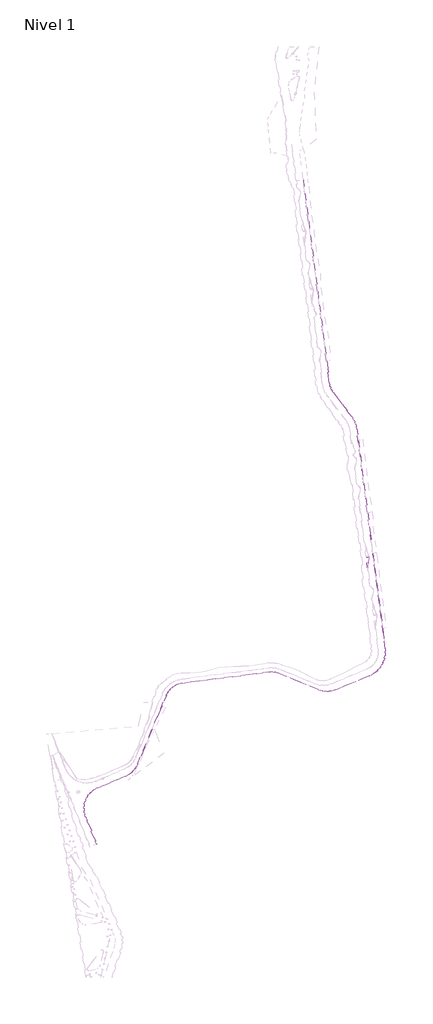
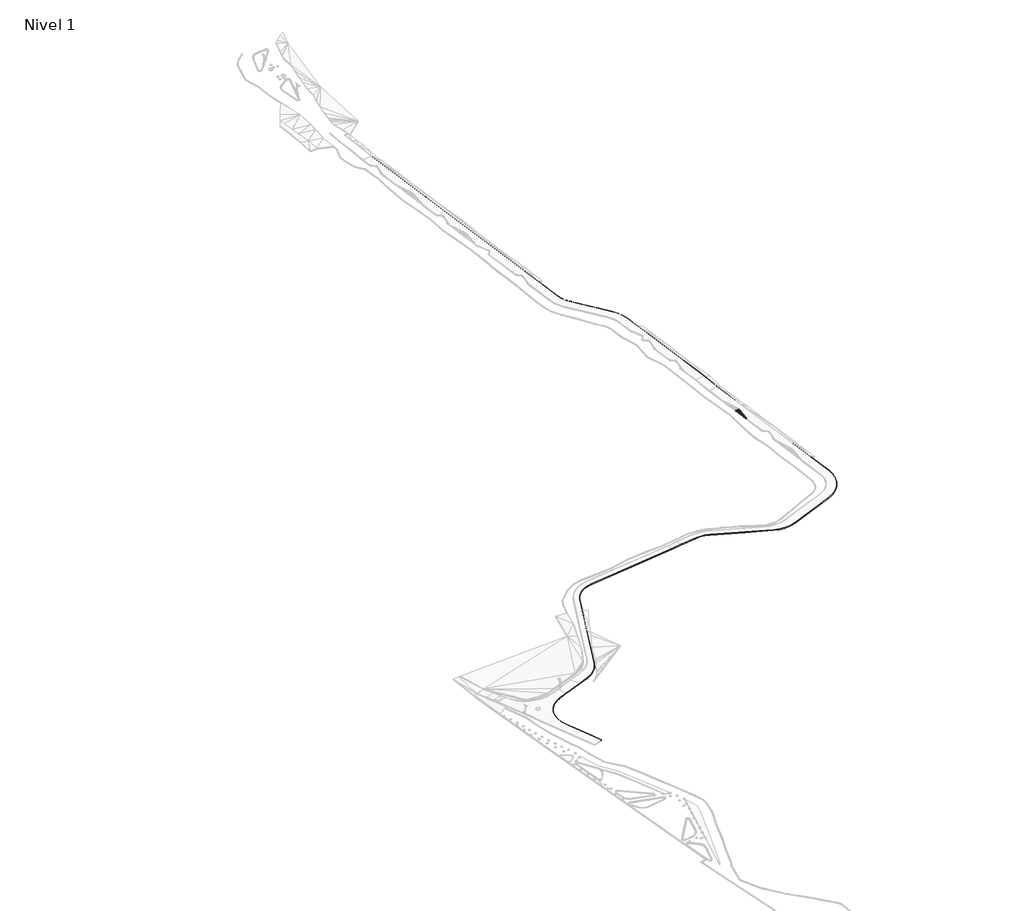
# One storey, part 30 of 45: 2 slabs.
"""IFC4 building model written with IfcOpenShell, lengths in millimetres."""

from ifc_helpers import new_model, si_unit, frame, origin, place, context, project, spatial, polyline, circle_curve, element, save
from ifc_brep_helpers import plane_surface, cylinder_surface, revolved_surface, spline_surface, advanced_brep

model = new_model("IFC4")

# Units and contexts
model_context = context("Model", 3, world=origin())
ifc_project = project(units=[si_unit("LENGTHUNIT", "METRE", prefix="MILLI")], contexts=[model_context])

# Site, building, storey
site = spatial("IfcSite", under=ifc_project)
building = spatial("IfcBuilding", under=site)
storey = spatial("IfcBuildingStorey", under=building, Name="Nivel 1", Elevation=0.0)

# Slabs
placement = place(None, origin())
element("IfcSlab", 1, ObjectType="Lippia", at=placement, inside=storey, context=model_context, shape_type="AdvancedBrep", body=[
    advanced_brep(
    [(-167707.6536234, 533759.1265405, 4450.0), (-167707.6536234, 533759.1265405, 4750.0), (-166821.7262789, 533873.9357882, 4750.0), (-166821.7262789, 533873.9357882, 4450.0), (-166258.7533804, 533342.2369371, 4750.0), (-166258.7533804, 533342.2369371, 4450.0), (-166742.3637754, 526297.0432619, 4750.0), (-166742.3637754, 526297.0432619, 4450.0), (-167239.8677624, 526283.2927639, 4450.0), (-167239.8677624, 526283.2927639, 4750.0), (-168136.2783903, 533201.3142607, 4750.0), (-168136.2783903, 533201.3142607, 4450.0), (-166942.822357, 533188.446603, 5050.0), (-167431.7029269, 533296.0234147, 5050.0), (-166942.822357, 533188.446603, 4750.0), (-167431.7029269, 533296.0234147, 4750.0), (-166960.6240179, 531466.2723273, 5250.0), (-166843.4058748, 531731.2431496, 5250.0), (-166726.1877317, 531996.2139719, 5250.0), (-166888.8368648, 532338.4883296, 5250.0), (-167309.8477364, 532181.7210546, 5250.0), (-167372.2033603, 531899.7035284, 5250.0), (-167423.7014396, 531666.7917231, 5250.0), (-167266.1271225, 531327.4580686, 5250.0), (-166960.6240179, 531466.2723273, 4950.0), (-167266.1271225, 531327.4580686, 4950.0), (-167423.7014396, 531666.7917231, 4950.0), (-167372.2033603, 531899.7035284, 4950.0), (-167309.8477364, 532181.7210546, 4950.0), (-166888.8368648, 532338.4883296, 4950.0), (-166726.1877317, 531996.2139719, 4950.0), (-166843.4058748, 531731.2431496, 4950.0), (-167732.8971704, 533016.4438364, 5050.0), (-167655.4986829, 533235.0913425, 5050.0), (-167732.8971704, 533016.4438364, 4750.0), (-167655.4986829, 533235.0913425, 4750.0), (-166638.654233, 532989.5006095, 5050.0), (-166638.654233, 532989.5006095, 4750.0), (-166549.5710017, 532637.1344167, 5050.0), (-166845.0080374, 530184.4485165, 5050.0), (-166845.0080374, 530184.4485165, 4750.0), (-166549.5710017, 532637.1344167, 4750.0), (-167340.8626541, 530180.137463, 5050.0), (-167340.8626541, 530180.137463, 4750.0), (-167091.0298451, 529964.3560648, 5050.0), (-167091.0298451, 529964.3560648, 4750.0)],
    [
        (0, 1),
        (1, 2),
        (2, 3),
        (3, 0),
        (2, 4, circle_curve(frame((-166757.4670893, 533378.0787528, 4750.0), z_axis=(0.0, 0.0, -1.0), x_axis=(0.9764306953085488, 0.21583117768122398, 0.0)), 499.9999992)),
        (4, 5),
        (5, 3, circle_curve(frame((-166757.4670893, 533378.0787528, 4450.0), z_axis=(0.0, 0.0, 1.0), x_axis=(0.9764306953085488, 0.21583117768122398, 0.0)), 499.9999992)),
        (4, 6),
        (6, 7),
        (7, 5),
        (8, 9),
        (9, 10),
        (10, 11),
        (11, 8),
        (10, 1, circle_curve(frame((-167640.1855606, 533263.6993909, 4750.0), z_axis=(0.0, 0.0, -1.0), x_axis=(0.9764306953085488, 0.21583117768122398, 0.0)), 500.0000001)),
        (0, 11, circle_curve(frame((-167640.1855606, 533263.6993909, 4450.0), z_axis=(0.0, 0.0, 1.0), x_axis=(0.9764306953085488, 0.21583117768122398, 0.0)), 500.0000001)),
        (2, 12),
        (12, 4),
        (1, 13),
        (13, 2),
        (5, 14),
        (14, 3),
        (3, 15),
        (15, 0),
        (16, 17),
        (17, 18),
        (18, 19),
        (19, 20),
        (20, 21),
        (21, 22),
        (22, 23),
        (23, 16),
        (24, 25),
        (25, 26),
        (26, 27),
        (27, 28),
        (28, 29),
        (29, 30),
        (30, 31),
        (31, 24),
        (20, 32),
        (32, 22),
        (10, 32),
        (32, 33),
        (33, 10),
        (19, 32),
        (26, 34),
        (34, 28),
        (11, 35),
        (35, 34),
        (34, 11),
        (34, 29),
        (32, 12),
        (12, 13),
        (13, 33),
        (19, 12),
        (12, 36),
        (36, 4),
        (35, 15),
        (15, 14),
        (14, 34),
        (14, 29),
        (5, 37),
        (37, 14),
        (4, 38),
        (38, 39),
        (39, 4),
        (19, 38),
        (38, 36),
        (36, 19),
        (5, 40),
        (40, 41),
        (41, 5),
        (29, 37),
        (37, 41),
        (41, 29),
        (22, 42),
        (42, 23),
        (23, 39),
        (39, 16),
        (39, 18),
        (25, 43),
        (43, 26),
        (24, 40),
        (40, 25),
        (30, 40),
        (42, 39),
        (40, 43),
        (1, 33),
        (35, 0),
        (10, 42),
        (42, 32),
        (42, 44),
        (44, 39),
        (18, 38),
        (34, 43),
        (43, 11),
        (40, 45),
        (45, 43),
        (41, 30),
        (6, 9, circle_curve(frame((-166991.7811858, 526314.1642749, 4750.0), z_axis=(0.0, 0.0, -1.0), x_axis=(0.9764306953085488, 0.21583117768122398, 0.0)), 249.9999994)),
        (8, 7, circle_curve(frame((-166991.7811858, 526314.1642749, 4450.0), z_axis=(0.0, 0.0, 1.0), x_axis=(0.9764306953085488, 0.21583117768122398, 0.0)), 249.9999994)),
        (9, 42),
        (9, 44),
        (6, 44),
        (6, 39),
        (43, 8),
        (45, 8),
        (45, 7),
        (40, 7),
    ],
    [
        plane_surface(frame((-167707.6536234, 533759.1265405, 4450.0), z_axis=(-0.12851749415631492, 0.9917072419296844, 0.0), x_axis=(0.0, 0.0, 1.0))),
        cylinder_surface(frame((-166757.4670893, 533378.0787528, 4750.0), z_axis=(0.0, 0.0, -1.0), x_axis=(0.9764306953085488, 0.21583117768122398, 0.0)), 499.9999992),
        plane_surface(frame((-166258.7533804, 533342.2369371, 4450.0), z_axis=(0.9976522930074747, -0.06848286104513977, 0.0), x_axis=(0.0, 0.0, 1.0))),
        plane_surface(frame((-167239.8677624, 526283.2927639, 4450.0), z_axis=(-0.9917092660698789, -0.12850187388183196, 0.0), x_axis=(0.0, 0.0, 1.0))),
        cylinder_surface(frame((-167640.1855606, 533263.6993909, 4750.0), z_axis=(0.0, 0.0, -1.0), x_axis=(0.9764306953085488, 0.21583117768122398, 0.0)), 500.0000001),
        spline_surface(2, 1, [[(-166258.7533804, 533342.2369371, 4750.0), (-166942.822357, 533188.446603, 5050.0)], [(-166241.75462528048, 533578.7626835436, 4750.0), (-166942.822357, 533188.446603, 5050.0)], [(-166414.1555870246, 533741.5855774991, 4750.0), (-166942.822357, 533188.446603, 5050.0)], [(-166586.55654871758, 533904.4084714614, 4750.0), (-166942.822357, 533188.446603, 5050.0)], [(-166821.7258363, 533873.9323729, 4750.0), (-166942.822357, 533188.446603, 5050.0)]], [3, 2, 3], [2, 2], [0.0, 1.0, 2.0], [0.0, 1.0], weights=[[1.0, 1.0], [0.903532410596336, 0.903532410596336], [1.0, 1.0], [0.9035324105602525, 0.9035324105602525], [1.0, 1.0]]),
        plane_surface(frame((-167320.3609431, 533643.0285811, 4850.0), z_axis=(-0.0666376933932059, 0.5142107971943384, 0.8550711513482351), x_axis=(-0.9917072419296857, -0.1285174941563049, 0.0))),
        spline_surface(1, 2, [[(-166258.7533804, 533342.2369371, 4450.0), (-166241.75462528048, 533578.7626835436, 4450.0), (-166414.1555870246, 533741.5855774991, 4450.0), (-166586.55654871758, 533904.4084714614, 4450.0), (-166821.7258363, 533873.9323729, 4450.0)], [(-166942.822357, 533188.446603, 4750.0), (-166942.822357, 533188.446603, 4750.0), (-166942.822357, 533188.446603, 4750.0), (-166942.822357, 533188.446603, 4750.0), (-166942.822357, 533188.446603, 4750.0)]], [2, 2], [3, 2, 3], [0.0, 1.0], [0.0, 1.0, 2.0], weights=[[1.0, 0.903532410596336, 1.0, 0.9035324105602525, 1.0], [1.0, 0.903532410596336, 1.0, 0.9035324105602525, 1.0]]),
        plane_surface(frame((-167320.3609431, 533643.0285811, 4550.0), z_axis=(0.0666376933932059, -0.5142107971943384, -0.8550711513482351), x_axis=(-0.9917072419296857, -0.1285174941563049, 0.0))),
        plane_surface(frame((-167095.8874855, 531829.4909125, 5250.0), z_axis=(0.0, 0.0, 1.0), x_axis=(0.40456233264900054, 0.914510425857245, 0.0))),
        plane_surface(frame((-167095.8874855, 531829.4909125, 4950.0), z_axis=(0.0, 0.0, -1.0), x_axis=(0.40456233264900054, 0.914510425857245, 0.0))),
        plane_surface(frame((-167488.8154488, 532288.3188714, 5183.3333333), z_axis=(-0.31191156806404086, 0.06896536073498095, 0.9476048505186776), x_axis=(0.2158912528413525, 0.9764174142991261, 0.0))),
        plane_surface(frame((-167841.5580812, 533150.9498132, 4950.0), z_axis=(-0.5294434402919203, 0.18741636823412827, 0.8273842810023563), x_axis=(0.7531046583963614, -0.3451493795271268, 0.5600939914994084))),
        plane_surface(frame((-167310.5272572, 532512.2177402, 5183.3333333), z_axis=(-0.07337556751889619, 0.19705586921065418, 0.9776425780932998), x_axis=(-0.7666747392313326, 0.6157988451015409, -0.18166349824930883))),
        plane_surface(frame((-167488.8154488, 532288.3188714, 4883.3333333), z_axis=(0.31191156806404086, -0.06896536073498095, -0.9476048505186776), x_axis=(0.2158912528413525, 0.9764174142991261, 0.0))),
        plane_surface(frame((-167841.5580812, 533150.9498132, 4650.0), z_axis=(0.5294434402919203, -0.18741636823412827, -0.8273842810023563), x_axis=(0.7531046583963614, -0.3451493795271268, 0.5600939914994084))),
        plane_surface(frame((-167310.5272572, 532512.2177402, 4883.3333333), z_axis=(0.07337556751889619, -0.19705586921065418, -0.9776425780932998), x_axis=(-0.7666747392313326, 0.6157988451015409, -0.18166349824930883))),
        plane_surface(frame((-167440.7302843, 533184.0012991, 5050.0), z_axis=(0.0, 0.0, 1.0000000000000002), x_axis=(0.9771128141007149, 0.2127217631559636, 0.0))),
        plane_surface(frame((-167188.1854641, 532847.792923, 5116.6666667), z_axis=(-0.04916055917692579, 0.22581334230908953, 0.972929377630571), x_axis=(-0.06170905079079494, 0.9715595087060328, -0.22861346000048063))),
        plane_surface(frame((-166613.4099902, 533173.3947165, 4950.0), z_axis=(0.280324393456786, 0.4285873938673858, 0.8589127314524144), x_axis=(-0.8969887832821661, -0.2016583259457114, 0.39337646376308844))),
        plane_surface(frame((-167065.4171876, 533452.8019353, 4950.0), z_axis=(0.08511790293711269, 0.3868165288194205, 0.9182199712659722), x_axis=(-0.6836626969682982, -0.6477250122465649, 0.3362404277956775))),
        plane_surface(frame((-167440.7302843, 533184.0012991, 4750.0), z_axis=(0.0, 0.0, -1.0000000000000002), x_axis=(0.9771128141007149, 0.2127217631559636, 0.0))),
        plane_surface(frame((-167188.1854641, 532847.792923, 4816.6666667), z_axis=(0.04916055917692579, -0.22581334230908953, -0.972929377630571), x_axis=(-0.06170905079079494, 0.9715595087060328, -0.22861346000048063))),
        plane_surface(frame((-166613.4099902, 533173.3947165, 4650.0), z_axis=(-0.280324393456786, -0.4285873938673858, -0.8589127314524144), x_axis=(-0.8969887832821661, -0.2016583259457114, 0.39337646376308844))),
        plane_surface(frame((-167065.4171876, 533452.8019353, 4650.0), z_axis=(-0.08511790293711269, -0.3868165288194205, -0.9182199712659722), x_axis=(-0.6836626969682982, -0.6477250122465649, 0.3362404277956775))),
        plane_surface(frame((-166551.1108065, 532054.6066234, 4950.0), z_axis=(0.8204736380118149, -0.09882973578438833, 0.5630769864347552), x_axis=(-0.35482864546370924, -0.8603005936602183, 0.3660321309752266))),
        plane_surface(frame((-166692.3540332, 532655.0411186, 5116.6666667), z_axis=(0.4317439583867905, 0.10915106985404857, 0.8953676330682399), x_axis=(0.686414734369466, 0.604231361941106, -0.40464709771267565))),
        plane_surface(frame((-166551.1108065, 532054.6066234, 4650.0), z_axis=(-0.8204736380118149, 0.09882973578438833, -0.5630769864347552), x_axis=(-0.35482864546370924, -0.8603005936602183, 0.3660321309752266))),
        plane_surface(frame((-166692.3540332, 532655.0411186, 4816.6666667), z_axis=(-0.4317439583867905, -0.10915106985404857, -0.8953676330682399), x_axis=(0.686414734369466, 0.604231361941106, -0.40464709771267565))),
        plane_surface(frame((-167343.5637387, 531058.1290849, 5183.3333333), z_axis=(-0.30945755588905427, -0.14370093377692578, 0.9399925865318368), x_axis=(-0.4211696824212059, 0.9069818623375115, 0.0))),
        plane_surface(frame((-167023.9197259, 530992.7263041, 5183.3333333), z_axis=(0.06719998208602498, -0.14789405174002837, 0.9867175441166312), x_axis=(-0.910423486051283, -0.41367750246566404, 0.0))),
        plane_surface(frame((-166843.939929, 531215.6449386, 5183.3333333), z_axis=(0.27900011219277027, -0.12342443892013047, 0.9523262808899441), x_axis=(0.08876641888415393, -0.9841451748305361, -0.15355389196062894))),
        plane_surface(frame((-167343.5637387, 531058.1290849, 4883.3333333), z_axis=(0.30945755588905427, 0.14370093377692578, -0.9399925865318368), x_axis=(-0.4211696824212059, 0.9069818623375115, 0.0))),
        plane_surface(frame((-167023.9197259, 530992.7263041, 4883.3333333), z_axis=(-0.06719998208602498, 0.14789405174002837, -0.9867175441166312), x_axis=(-0.910423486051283, -0.41367750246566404, 0.0))),
        plane_surface(frame((-166843.939929, 531215.6449386, 4883.3333333), z_axis=(-0.27900011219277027, 0.12342443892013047, -0.9523262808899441), x_axis=(0.08876641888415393, -0.9841451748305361, -0.15355389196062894))),
        plane_surface(frame((-167150.665938, 530564.0146827, 5116.6666667), z_axis=(0.0014938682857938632, -0.17182377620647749, 0.9851265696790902), x_axis=(-0.06403976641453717, -0.9831219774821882, -0.17137702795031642))),
        plane_surface(frame((-167150.665938, 530564.0146827, 4816.6666667), z_axis=(-0.0014938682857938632, 0.17182377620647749, -0.9851265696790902), x_axis=(-0.06403976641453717, -0.9831219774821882, -0.17137702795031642))),
        plane_surface(frame((-167598.2850777, 533430.0804326, 4950.0), z_axis=(-0.13140574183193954, 0.4826365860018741, 0.8659067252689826), x_axis=(0.086052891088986, -0.8646303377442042, 0.49498411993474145))),
        spline_surface(2, 1, [[(-167707.6536234, 533759.1265405, 4750.0), (-167655.4986829, 533235.0913425, 5050.0)], [(-168198.0271597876, 533692.3466867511, 4750.0), (-167655.4986829, 533235.0913425, 5050.0)], [(-168136.2783903, 533201.3142607, 4750.0), (-167655.4986829, 533235.0913425, 5050.0)]], [3, 3], [2, 2], [0.0, 1.0], [0.0, 1.0], weights=[[1.0, 1.0], [0.7107223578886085, 0.7107223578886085], [1.0, 1.0]]),
        plane_surface(frame((-167598.2850777, 533430.0804326, 4650.0), z_axis=(0.13140574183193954, -0.4826365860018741, -0.8659067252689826), x_axis=(0.086052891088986, -0.8646303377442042, 0.49498411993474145))),
        spline_surface(1, 2, [[(-167707.6536234, 533759.1265405, 4450.0), (-168198.0271597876, 533692.3466867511, 4450.0), (-168136.2783903, 533201.3142607, 4450.0)], [(-167655.4986829, 533235.0913425, 4750.0), (-167655.4986829, 533235.0913425, 4750.0), (-167655.4986829, 533235.0913425, 4750.0)]], [2, 2], [3, 3], [0.0, 1.0], [0.0, 1.0], weights=[[1.0, 0.7107223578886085, 1.0], [1.0, 0.7107223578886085, 1.0]]),
        plane_surface(frame((-166823.4378183, 532838.8118474, 5116.6666667), z_axis=(0.15408310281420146, 0.23557734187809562, 0.9595632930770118), x_axis=(0.34482264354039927, 0.8972796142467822, -0.27565674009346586))),
        plane_surface(frame((-166823.4378183, 532838.8118474, 4816.6666667), z_axis=(-0.15408310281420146, -0.23557734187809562, -0.9595632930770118), x_axis=(0.34482264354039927, 0.8972796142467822, -0.27565674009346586))),
        plane_surface(frame((-167736.6794049, 532132.6318533, 4950.0), z_axis=(-0.6195468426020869, -0.0856338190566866, 0.7802746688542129), x_axis=(0.2534380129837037, -0.9626174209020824, 0.09558699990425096))),
        plane_surface(frame((-167092.3001789, 530109.6473481, 5050.0), z_axis=(0.0, 0.0, 1.0), x_axis=(-0.999962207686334, -0.008693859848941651, 0.0))),
        plane_surface(frame((-166721.5318661, 532323.9455727, 5183.3333333), z_axis=(0.37758066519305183, 0.17942672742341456, 0.9084266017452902), x_axis=(0.42920496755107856, -0.9032071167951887, 0.0))),
        plane_surface(frame((-166482.326205, 532989.6239878, 4950.0), z_axis=(0.5338566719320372, 0.1349666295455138, 0.8347341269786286), x_axis=(-0.6342723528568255, -0.5889191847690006, 0.5008720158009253))),
        plane_surface(frame((-167736.6794049, 532132.6318533, 4650.0), z_axis=(0.6195468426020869, 0.0856338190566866, -0.7802746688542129), x_axis=(0.2534380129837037, -0.9626174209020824, 0.09558699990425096))),
        plane_surface(frame((-167092.3001789, 530109.6473481, 4750.0), z_axis=(0.0, 0.0, -1.0), x_axis=(-0.999962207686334, -0.008693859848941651, 0.0))),
        plane_surface(frame((-166721.5318661, 532323.9455727, 4883.3333333), z_axis=(-0.37758066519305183, -0.17942672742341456, -0.9084266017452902), x_axis=(0.42920496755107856, -0.9032071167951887, 0.0))),
        plane_surface(frame((-166482.326205, 532989.6239878, 4650.0), z_axis=(-0.5338566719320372, -0.1349666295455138, -0.8347341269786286), x_axis=(-0.6342723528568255, -0.5889191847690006, 0.5008720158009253))),
        plane_surface(frame((-167499.1537547, 531621.1243408, 5116.6666667), z_axis=(-0.8466189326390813, -0.11701974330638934, 0.5191750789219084), x_axis=(-0.22101411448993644, 0.9647357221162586, -0.1429606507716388))),
        plane_surface(frame((-167499.1537547, 531621.1243408, 4816.6666667), z_axis=(0.8466189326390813, 0.11701974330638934, -0.5191750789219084), x_axis=(-0.22101411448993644, 0.9647357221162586, -0.1429606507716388))),
        plane_surface(frame((-166706.9222569, 531605.9323017, 5116.6666667), z_axis=(0.8903082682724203, -0.10724163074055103, 0.4425499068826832), x_axis=(-0.06504857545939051, -0.9918570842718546, -0.10949067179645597))),
        plane_surface(frame((-166706.9222569, 531605.9323017, 4816.6666667), z_axis=(-0.8903082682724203, 0.10724163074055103, -0.4425499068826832), x_axis=(-0.06504857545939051, -0.9918570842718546, -0.10949067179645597))),
        cylinder_surface(frame((-166991.7811858, 526314.1642749, 4750.0), z_axis=(0.0, 0.0, -1.0), x_axis=(0.9764306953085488, 0.21583117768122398, 0.0)), 249.9999994),
        plane_surface(frame((-167572.3362689, 529888.2481625, 4850.0), z_axis=(-0.5944601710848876, -0.07702786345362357, 0.8004272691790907), x_axis=(0.1285018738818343, -0.9917092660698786, 0.0))),
        plane_surface(frame((-167223.9200872, 528809.2620972, 4950.0), z_axis=(-0.06764975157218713, -0.07832522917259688, 0.9946299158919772), x_axis=(0.02583200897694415, -0.9967170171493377, -0.07673262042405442))),
        spline_surface(2, 1, [[(-167239.8677624, 526283.2927639, 4750.0), (-167091.0298451, 529964.3560648, 5050.0)], [(-167211.83101870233, 526057.986663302, 4750.0), (-167091.0298451, 529964.3560648, 5050.0)], [(-166984.87387125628, 526064.2597157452, 4750.0), (-167091.0298451, 529964.3560648, 5050.0)], [(-166757.91672381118, 526070.5327681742, 4750.0), (-167091.0298451, 529964.3560648, 5050.0)], [(-166742.3681132, 526297.0435597, 4750.0), (-167091.0298451, 529964.3560648, 5050.0)]], [3, 2, 3], [2, 2], [0.0, 1.0, 2.0], [0.0, 1.0], weights=[[1.0, 1.0], [0.7402773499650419, 0.7402773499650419], [1.0, 1.0], [0.7402773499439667, 0.7402773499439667], [1.0, 1.0]]),
        plane_surface(frame((-166892.8005526, 528815.2826144, 4950.0), z_axis=(0.06710314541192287, -0.07500864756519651, 0.9949225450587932), x_axis=(-0.7452899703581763, -0.6667404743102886, 0.0))),
        plane_surface(frame((-166615.3750644, 529941.2429052, 4850.0), z_axis=(0.6297354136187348, -0.04322756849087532, 0.7756060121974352), x_axis=(-0.18174335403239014, -0.9789381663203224, 0.09300225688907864))),
        plane_surface(frame((-167572.3362689, 529888.2481625, 4550.0), z_axis=(0.5944601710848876, 0.07702786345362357, -0.8004272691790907), x_axis=(0.1285018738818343, -0.9917092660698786, 0.0))),
        plane_surface(frame((-167223.9200872, 528809.2620972, 4650.0), z_axis=(0.06764975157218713, 0.07832522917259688, -0.9946299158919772), x_axis=(0.02583200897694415, -0.9967170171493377, -0.07673262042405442))),
        spline_surface(1, 2, [[(-167239.8677624, 526283.2927639, 4450.0), (-167211.83101870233, 526057.986663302, 4450.0), (-166984.87387125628, 526064.2597157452, 4450.0), (-166757.91672381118, 526070.5327681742, 4450.0), (-166742.3681132, 526297.0435597, 4450.0)], [(-167091.0298451, 529964.3560648, 4750.0), (-167091.0298451, 529964.3560648, 4750.0), (-167091.0298451, 529964.3560648, 4750.0), (-167091.0298451, 529964.3560648, 4750.0), (-167091.0298451, 529964.3560648, 4750.0)]], [2, 2], [3, 2, 3], [0.0, 1.0], [0.0, 1.0, 2.0], weights=[[1.0, 0.7402773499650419, 1.0, 0.7402773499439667, 1.0], [1.0, 0.7402773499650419, 1.0, 0.7402773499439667, 1.0]]),
        plane_surface(frame((-166892.8005526, 528815.2826144, 4650.0), z_axis=(-0.06710314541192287, 0.07500864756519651, -0.9949225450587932), x_axis=(-0.7452899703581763, -0.6667404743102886, 0.0))),
        plane_surface(frame((-166615.3750644, 529941.2429052, 4550.0), z_axis=(-0.6297354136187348, 0.04322756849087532, -0.7756060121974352), x_axis=(-0.18174335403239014, -0.9789381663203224, 0.09300225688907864))),
    ],
    [
        (0, [[1, 2, 3, 4]]),
        (1, [[-3, 5, 6, 7]]),
        (2, [[-6, 8, 9, 10]]),
        (3, [[11, 12, 13, 14]]),
        (4, [[-13, 15, -1, 16]]),
        (5, [[-5, 17, 18]]),
        (6, [[-2, 19, 20]]),
        (7, [[21, 22, -7]]),
        (8, [[23, 24, -4]]),
        (9, [[25, 26, 27, 28, 29, 30, 31, 32]]),
        (10, [[33, 34, 35, 36, 37, 38, 39, 40]]),
        (11, [[-29, 41, 42, -30]]),
        (12, [[43, 44, 45]]),
        (13, [[46, -41, -28]]),
        (14, [[-35, 47, 48, -36]]),
        (15, [[49, 50, 51]]),
        (16, [[-37, -48, 52]]),
        (17, [[53, 54, 55, -44]]),
        (18, [[56, -53, -46]]),
        (19, [[-18, 57, 58]]),
        (20, [[-20, -54, -17]]),
        (21, [[-50, 59, 60, 61]]),
        (22, [[-52, -61, 62]]),
        (23, [[63, 64, -21]]),
        (24, [[-22, -60, -23]]),
        (25, [[65, 66, 67]]),
        (26, [[68, 69, 70]]),
        (27, [[71, 72, 73]]),
        (28, [[74, 75, 76]]),
        (29, [[-31, 77, 78]]),
        (30, [[-32, 79, 80]]),
        (31, [[-80, 81, -26, -25]]),
        (32, [[82, 83, -34]]),
        (33, [[84, 85, -33]]),
        (34, [[-40, -39, 86, -84]]),
        (35, [[-78, 87, -79]]),
        (36, [[-85, 88, -82]]),
        (37, [[89, -55, -19]]),
        (38, [[-45, -89, -15]]),
        (39, [[-24, -59, 90]]),
        (40, [[-16, -90, -49]]),
        (41, [[-70, -57, -56]]),
        (42, [[-62, -64, -74]]),
        (43, [[91, 92, -43]]),
        (44, [[-87, 93, 94]]),
        (45, [[-27, 95, -68]]),
        (46, [[-58, -69, -65]]),
        (47, [[-51, 96, 97]]),
        (48, [[98, 99, -88]]),
        (49, [[-76, 100, -38]]),
        (50, [[-73, -75, -63]]),
        (51, [[-42, -92, -77]]),
        (52, [[-83, -96, -47]]),
        (53, [[-81, -66, -95]]),
        (54, [[-100, -72, -86]]),
        (55, [[-9, 101, -11, 102]]),
        (56, [[-12, 103, -91]]),
        (57, [[-103, 104, -93]]),
        (58, [[-104, -101, 105]]),
        (59, [[-94, -105, 106]]),
        (60, [[-67, -106, -8]]),
        (61, [[-97, 107, -14]]),
        (62, [[-99, 108, -107]]),
        (63, [[109, -102, -108]]),
        (64, [[110, -109, -98]]),
        (65, [[-10, -110, -71]]),
    ],
),
])
element("IfcSlab", 2, ObjectType="Bordillo", at=placement, inside=storey, context=model_context, shape_type="AdvancedBrep", body=[
    advanced_brep(
    [(-358326.2992921, 350709.3611422, 4350.0), (-358326.2992921, 350709.3611422, 4750.0), (-360417.5436664, 355787.3687424, 4750.0), (-360417.5436664, 355787.3687424, 4350.0), (-352096.4499143, 375760.8361096, 4750.0), (-352096.4499143, 375760.8361096, 4350.0), (-348081.560877, 377414.2629608, 4750.0), (-338834.9592686, 381222.2335523, 4500.0), (-332959.7241666, 383641.7951851, 4500.0), (-332959.7241666, 383641.7951851, 4100.0), (-338834.9592686, 381222.2335523, 4100.0), (-348081.560877, 377414.2629608, 4350.0), (-324825.226723, 391743.1468952, 4500.0), (-324825.226723, 391743.1468952, 4100.0), (-305142.8152393, 438987.6576961, 4500.0), (-305142.8152393, 438987.6576961, 4100.0), (-294158.1005383, 447368.6852481, 4500.0), (-294158.1005383, 447368.6852481, 4100.0), (-248196.2040507, 453258.3262702, 4500.0), (-243237.2377654, 453893.7772305, 4750.0), (-234681.7696475, 454990.0904778, 4750.0), (-234681.7696475, 454990.0904778, 4350.0), (-243237.2377654, 453893.7772305, 4350.0), (-248196.2040507, 453258.3262702, 4100.0), (-227620.7059592, 454040.7439218, 4750.0), (-227620.7059592, 454040.7439218, 4350.0), (-200742.839752, 442843.2267494, 4750.0), (-200742.839752, 442843.2267494, 4350.0), (-189262.3607156, 442819.7891692, 4750.0), (-189262.3607156, 442819.7891692, 4350.0), (-165862.2340133, 452456.5182234, 4750.0), (-165862.2340133, 452456.5182234, 4350.0), (-155171.2610218, 470886.8310678, 4750.0), (-155171.2610218, 470886.8310678, 4350.0), (-165961.0950468, 554157.0438593, 4750.0), (-167246.0636498, 564073.7495985, 5250.0), (-174656.6179001, 621264.4744874, 5250.0), (-174656.6179001, 621264.4744874, 4850.0), (-167246.0636498, 564073.7495985, 4850.0), (-165961.0950468, 554157.0438593, 4350.0), (-178106.1266431, 629640.6507967, 5250.0), (-178106.1266431, 629640.6507967, 4850.0), (-190796.522939, 646249.192842, 5250.0), (-190796.522939, 646249.192842, 4850.0), (-193319.5921919, 652375.7675163, 5250.0), (-193319.5921919, 652375.7675163, 4850.0), (-195319.6487743, 667811.1427853, 5250.0), (-211382.4061345, 791774.97955, 5250.0), (-211382.4061345, 791774.97955, 4850.0), (-195319.6487743, 667811.1427853, 4850.0), (-211233.6497506, 791794.2548303, 5250.0), (-211233.6497506, 791794.2548303, 4850.0), (-195170.9155208, 667830.5965732, 5250.0), (-195170.9155208, 667830.5965732, 4850.0), (-193170.8358057, 652395.0427792, 5250.0), (-193170.8358057, 652395.0427792, 4850.0), (-190677.3337811, 646340.2639273, 5250.0), (-190677.3337811, 646340.2639273, 4850.0), (-177986.9374737, 629731.7218667, 5250.0), (-177986.9374737, 629731.7218667, 4850.0), (-174507.8615161, 621283.7497684, 5250.0), (-174507.8615161, 621283.7497684, 4850.0), (-173522.4510964, 613678.8751115, 5250.0), (-173522.4510964, 613678.8751115, 4850.0), (-167097.3574022, 564093.4118054, 5250.0), (-167097.3574022, 564093.4118054, 4850.0), (-165812.3386628, 554176.3191396, 4750.0), (-163497.657802, 536312.8406676, 4750.0), (-163497.657802, 536312.8406676, 4350.0), (-165812.3386628, 554176.3191396, 4350.0), (-156817.2074926, 484756.6705251, 4750.0), (-156817.2074926, 484756.6705251, 4350.0), (-155022.5046381, 470906.1063502, 4750.0), (-155022.5046381, 470906.1063502, 4350.0), (-165805.1145462, 452317.8193874, 4750.0), (-165805.1145462, 452317.8193874, 4350.0), (-189205.2412365, 442681.0903389, 4750.0), (-189205.2412365, 442681.0903389, 4350.0), (-200800.5250627, 442704.7622952, 4750.0), (-200800.5250627, 442704.7622952, 4350.0), (-212637.4386185, 447636.1077296, 4750.0), (-212637.4386185, 447636.1077296, 4350.0), (-227678.2374006, 453902.2153645, 4750.0), (-227678.2374006, 453902.2153645, 4350.0), (-234662.5393057, 454841.3281772, 4750.0), (-234662.5393057, 454841.3281772, 4350.0), (-243218.1723849, 453744.9937914, 4750.0), (-248177.6203026, 453109.4811138, 4500.0), (-248177.6203026, 453109.4811138, 4100.0), (-243218.1723849, 453744.9937914, 4350.0), (-294139.2086652, 447219.8795754, 4500.0), (-294139.2086652, 447219.8795754, 4100.0), (-305004.2710248, 438930.1638373, 4500.0), (-305004.2710248, 438930.1638373, 4100.0), (-307994.8930088, 431751.6495206, 4500.0), (-307994.8930088, 431751.6495206, 4100.0), (-314598.0289566, 415901.8677058, 4500.0), (-314598.0289566, 415901.8677058, 4100.0), (-324686.7622705, 391685.4615805, 4500.0), (-324686.7622705, 391685.4615805, 4100.0), (-332902.6046914, 383503.0963613, 4500.0), (-332902.6046914, 383503.0963613, 4100.0), (-338777.8397915, 381083.5347266, 4500.0), (-348024.4283918, 377275.5694883, 4750.0), (-352039.1501722, 375622.2115158, 4750.0), (-352039.1501722, 375622.2115158, 4350.0), (-348024.4283918, 377275.5694883, 4350.0), (-338777.8397915, 381083.5347266, 4100.0), (-360278.8448347, 355844.4882152, 4750.0), (-360278.8448347, 355844.4882152, 4350.0), (-358187.6005403, 350766.4805889, 4750.0), (-358187.6005403, 350766.4805889, 4350.0), (-354430.5856552, 341643.610816, 4750.0), (-352526.603078, 337020.3166228, 4750.0), (-352526.603078, 337020.3166228, 4350.0), (-354430.5856552, 341643.610816, 4350.0), (-352665.3018299, 336963.197176, 4750.0), (-352665.3018299, 336963.197176, 4350.0), (-354569.2844071, 341586.4913692, 4750.0), (-354569.2844071, 341586.4913692, 4350.0)],
    [
        (0, 1),
        (1, 2),
        (2, 3),
        (3, 0),
        (2, 4, circle_curve(frame((-346270.263105, 361613.5555492, 4750.0), z_axis=(0.0, 0.0, -1.0), x_axis=(1.0, 0.0, 0.0)), 15299.9999997)),
        (4, 5),
        (5, 3, circle_curve(frame((-346270.263105, 361613.5555492, 4350.0), z_axis=(0.0, 0.0, 1.0), x_axis=(1.0, 0.0, 0.0)), 15299.9999997)),
        (4, 6),
        (6, 7),
        (7, 8),
        (8, 9),
        (9, 10),
        (10, 11),
        (11, 5),
        (8, 12, circle_curve(frame((-338671.6720387, 397511.678089, 4500.0), z_axis=(0.0, 0.0, 1.0), x_axis=(1.0, 0.0, 0.0)), 15000.0000004)),
        (12, 13),
        (13, 9, circle_curve(frame((-338671.6720387, 397511.678089, 4100.0), z_axis=(0.0, 0.0, -1.0), x_axis=(1.0, 0.0, 0.0)), 15000.0000004)),
        (12, 14),
        (14, 15),
        (15, 13),
        (14, 16, circle_curve(frame((-292404.0855485, 433680.6089977, 4500.0), z_axis=(0.0, 0.0, -1.0), x_axis=(1.0, 0.0, 0.0)), 13800.0000008)),
        (16, 17),
        (17, 15, circle_curve(frame((-292404.0855485, 433680.6089977, 4100.0), z_axis=(0.0, 0.0, 1.0), x_axis=(1.0, 0.0, 0.0)), 13800.0000008)),
        (16, 18),
        (18, 19),
        (19, 20),
        (20, 21),
        (21, 22),
        (22, 23),
        (23, 17),
        (20, 24, circle_curve(frame((-232927.7546545, 441302.0142024, 4750.0), z_axis=(0.0, 0.0, -1.0), x_axis=(1.0, 0.0, 0.0)), 13800.000026)),
        (24, 25),
        (25, 21, circle_curve(frame((-232927.7546545, 441302.0142024, 4350.0), z_axis=(0.0, 0.0, 1.0), x_axis=(1.0, 0.0, 0.0)), 13800.000026)),
        (24, 26),
        (26, 27),
        (27, 25),
        (26, 28, circle_curve(frame((-194974.3085717, 456689.672072, 4750.0), z_axis=(0.0, 0.0, 1.0), x_axis=(1.0, 0.0, 0.0)), 15000.0000017)),
        (28, 29),
        (29, 27, circle_curve(frame((-194974.3085717, 456689.672072, 4350.0), z_axis=(0.0, 0.0, -1.0), x_axis=(1.0, 0.0, 0.0)), 15000.0000017)),
        (28, 30),
        (30, 31),
        (31, 29),
        (30, 32, circle_curve(frame((-172526.173178, 468638.0482749, 4750.0), z_axis=(0.0, 0.0, 1.0), x_axis=(1.0, 0.0, 0.0)), 17500.0)),
        (32, 33),
        (33, 31, circle_curve(frame((-172526.173178, 468638.0482749, 4350.0), z_axis=(0.0, 0.0, -1.0), x_axis=(1.0, 0.0, 0.0)), 17500.0)),
        (32, 34),
        (34, 35),
        (35, 36),
        (36, 37),
        (37, 38),
        (38, 39),
        (39, 33),
        (36, 40, circle_curve(frame((-192011.5300574, 619015.6916944, 5250.0), z_axis=(0.0, 0.0, 1.0), x_axis=(1.0, 0.0, 0.0)), 17500.000001)),
        (40, 41),
        (41, 37, circle_curve(frame((-192011.5300574, 619015.6916944, 4850.0), z_axis=(0.0, 0.0, -1.0), x_axis=(1.0, 0.0, 0.0)), 17500.000001)),
        (40, 42),
        (42, 43),
        (43, 41),
        (42, 44, circle_curve(frame((-180625.7135814, 654020.591502, 5250.0), z_axis=(0.0, 0.0, -1.0), x_axis=(1.0, 0.0, 0.0)), 12800.0000047)),
        (44, 45),
        (45, 43, circle_curve(frame((-180625.7135814, 654020.591502, 4850.0), z_axis=(0.0, 0.0, 1.0), x_axis=(1.0, 0.0, 0.0)), 12800.0000047)),
        (44, 46),
        (46, 47),
        (47, 48),
        (48, 49),
        (49, 45),
        (47, 50),
        (50, 51),
        (51, 48),
        (50, 52),
        (52, 53),
        (53, 51),
        (52, 54),
        (54, 55),
        (55, 53),
        (54, 56, circle_curve(frame((-180625.7136379, 654020.591477, 5250.0), z_axis=(0.0, 0.0, 1.0), x_axis=(1.0, 0.0, 0.0)), 12649.9999516)),
        (56, 57),
        (57, 55, circle_curve(frame((-180625.7136379, 654020.591477, 4850.0), z_axis=(0.0, 0.0, -1.0), x_axis=(1.0, 0.0, 0.0)), 12649.9999516)),
        (56, 58),
        (58, 59),
        (59, 57),
        (58, 60, circle_curve(frame((-192011.5300469, 619015.6916965, 5250.0), z_axis=(0.0, 0.0, -1.0), x_axis=(1.0, 0.0, 0.0)), 17649.9999846)),
        (60, 61),
        (61, 59, circle_curve(frame((-192011.5300469, 619015.6916965, 4850.0), z_axis=(0.0, 0.0, 1.0), x_axis=(1.0, 0.0, 0.0)), 17649.9999846)),
        (60, 62),
        (62, 63),
        (63, 61),
        (62, 64),
        (64, 65),
        (65, 63),
        (64, 66),
        (66, 67),
        (67, 68),
        (68, 69),
        (69, 65),
        (67, 70),
        (70, 71),
        (71, 68),
        (70, 72),
        (72, 73),
        (73, 71),
        (72, 74, circle_curve(frame((-172526.1731918, 468638.0482753, 4750.0), z_axis=(0.0, 0.0, -1.0), x_axis=(1.0, 0.0, 0.0)), 17650.0000077)),
        (74, 75),
        (75, 73, circle_curve(frame((-172526.1731918, 468638.0482753, 4350.0), z_axis=(0.0, 0.0, 1.0), x_axis=(1.0, 0.0, 0.0)), 17650.0000077)),
        (74, 76),
        (76, 77),
        (77, 75),
        (76, 78, circle_curve(frame((-194974.3085706, 456689.6720709, 4750.0), z_axis=(0.0, 0.0, -1.0), x_axis=(1.0, 0.0, 0.0)), 15150.0000016)),
        (78, 79),
        (79, 77, circle_curve(frame((-194974.3085706, 456689.6720709, 4350.0), z_axis=(0.0, 0.0, 1.0), x_axis=(1.0, 0.0, 0.0)), 15150.0000016)),
        (78, 80),
        (80, 81),
        (81, 79),
        (80, 82),
        (82, 83),
        (83, 81),
        (82, 84, circle_curve(frame((-232927.7546526, 441302.0142006, 4750.0), z_axis=(0.0, 0.0, 1.0), x_axis=(1.0, 0.0, 0.0)), 13650.0000275)),
        (84, 85),
        (85, 83, circle_curve(frame((-232927.7546526, 441302.0142006, 4350.0), z_axis=(0.0, 0.0, -1.0), x_axis=(1.0, 0.0, 0.0)), 13650.0000275)),
        (84, 86),
        (86, 87),
        (87, 88),
        (88, 89),
        (89, 85),
        (87, 90),
        (90, 91),
        (91, 88),
        (90, 92, circle_curve(frame((-292404.0855477, 433680.6089939, 4500.0), z_axis=(0.0, 0.0, 1.0), x_axis=(1.0, 0.0, 0.0)), 13650.0000041)),
        (92, 93),
        (93, 91, circle_curve(frame((-292404.0855477, 433680.6089939, 4100.0), z_axis=(0.0, 0.0, -1.0), x_axis=(1.0, 0.0, 0.0)), 13650.0000041)),
        (92, 94),
        (94, 95),
        (95, 93),
        (94, 96),
        (96, 97),
        (97, 95),
        (96, 98),
        (98, 99),
        (99, 97),
        (98, 100, circle_curve(frame((-338671.6720389, 397511.678086, 4500.0), z_axis=(0.0, 0.0, -1.0), x_axis=(1.0, 0.0, 0.0)), 15149.9999999)),
        (100, 101),
        (101, 99, circle_curve(frame((-338671.6720389, 397511.678086, 4100.0), z_axis=(0.0, 0.0, 1.0), x_axis=(1.0, 0.0, 0.0)), 15149.9999999)),
        (100, 102),
        (102, 103),
        (103, 104),
        (104, 105),
        (105, 106),
        (106, 107),
        (107, 101),
        (104, 108, circle_curve(frame((-346270.2631051, 361613.5555492, 4750.0), z_axis=(0.0, 0.0, 1.0), x_axis=(1.0, 0.0, 0.0)), 15149.9999994)),
        (108, 109),
        (109, 105, circle_curve(frame((-346270.2631051, 361613.5555492, 4350.0), z_axis=(0.0, 0.0, -1.0), x_axis=(1.0, 0.0, 0.0)), 15149.9999994)),
        (108, 110),
        (110, 111),
        (111, 109),
        (110, 112),
        (112, 113),
        (113, 114),
        (114, 115),
        (115, 111),
        (113, 116),
        (116, 117),
        (117, 114),
        (116, 118),
        (118, 1),
        (0, 119),
        (119, 117),
        (103, 6),
        (11, 106),
        (87, 18),
        (7, 102),
        (107, 10),
        (23, 88),
        (66, 34),
        (19, 86),
        (89, 22),
        (39, 69),
        (86, 18),
        (23, 89),
        (35, 64),
        (65, 38),
        (35, 66),
        (69, 38),
        (103, 7),
        (10, 106),
    ],
    [
        plane_surface(frame((-358326.2992921, 350709.3611422, 4600.0), z_axis=(-0.9246588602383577, -0.3807965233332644, 0.0), x_axis=(0.0, 0.0, 1.0))),
        cylinder_surface(frame((-346270.263105, 361613.5555492, 5000.0), z_axis=(0.0, 0.0, -1.0), x_axis=(1.0, 0.0, 0.0)), 15299.9999997),
        plane_surface(frame((-352096.4499143, 375760.8361096, 4600.0), z_axis=(-0.38079652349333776, 0.9246588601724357, 0.0), x_axis=(0.0, 0.0, 1.0))),
        revolved_surface(polyline([(-323671.6720383, 397511.678089, 4500.0), (-323671.6720383, 397511.678089, 4100.0)]), (-338671.6720387, 397511.678089, 5000.0), (0.0, 0.0, 1.0)),
        plane_surface(frame((-324825.226723, 391743.1468952, 4600.0), z_axis=(-0.9230963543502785, 0.3845687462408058, 0.0), x_axis=(0.0, 0.0, 1.0))),
        cylinder_surface(frame((-292404.0855485, 433680.6089977, 5000.0), z_axis=(0.0, 0.0, -1.0), x_axis=(1.0, 0.0, 0.0)), 13800.0000008),
        plane_surface(frame((-294158.1005383, 447368.6852481, 4600.0), z_axis=(-0.12710253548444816, 0.9918895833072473, 0.0), x_axis=(0.0, 0.0, 1.0))),
        cylinder_surface(frame((-232927.7546545, 441302.0142024, 5000.0), z_axis=(0.0, 0.0, -1.0), x_axis=(1.0, 0.0, 0.0)), 13800.000026),
        plane_surface(frame((-227620.7059592, 454040.7439218, 4600.0), z_axis=(0.3845687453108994, 0.9230963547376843, 0.0), x_axis=(0.0, 0.0, 1.0))),
        revolved_surface(polyline([(-179974.30857, 456689.672072, 4750.0), (-179974.30857, 456689.672072, 4350.0)]), (-194974.3085717, 456689.672072, 5000.0), (0.0, 0.0, 1.0)),
        plane_surface(frame((-189262.3607156, 442819.7891692, 4600.0), z_axis=(-0.380796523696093, 0.9246588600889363, 0.0), x_axis=(0.0, 0.0, 1.0))),
        revolved_surface(polyline([(-155026.173178, 468638.0482749, 4750.0), (-155026.173178, 468638.0482749, 4350.0)]), (-172526.173178, 468638.0482749, 5000.0), (0.0, 0.0, 1.0)),
        plane_surface(frame((-155171.2610218, 470886.8310678, 4600.0), z_axis=(-0.991709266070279, -0.1285018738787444, 0.0), x_axis=(0.0, 0.0, 1.0))),
        revolved_surface(polyline([(-174511.5300564, 619015.6916944, 5250.0), (-174511.5300564, 619015.6916944, 4850.0)]), (-192011.5300574, 619015.6916944, 5000.0), (0.0, 0.0, 1.0)),
        plane_surface(frame((-178106.1266431, 629640.6507967, 4600.0), z_axis=(-0.794594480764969, -0.6071405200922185, 0.0), x_axis=(0.0, 0.0, 1.0))),
        cylinder_surface(frame((-180625.7135814, 654020.591502, 5000.0), z_axis=(0.0, 0.0, -1.0), x_axis=(1.0, 0.0, 0.0)), 12800.0000047),
        plane_surface(frame((-193319.5921919, 652375.7675163, 4600.0), z_axis=(-0.9917092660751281, -0.12850187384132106, 0.0), x_axis=(0.0, 0.0, 1.0))),
        plane_surface(frame((-211382.4061345, 791774.97955, 4600.0), z_axis=(-0.12850187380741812, 0.9917092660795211, 0.0), x_axis=(0.0, 0.0, 1.0))),
        plane_surface(frame((-211233.6497506, 791794.2548303, 4600.0), z_axis=(0.9917092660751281, 0.12850187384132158, 0.0), x_axis=(0.0, 0.0, 1.0))),
        plane_surface(frame((-195170.9155208, 667830.5965732, 4600.0), z_axis=(0.9917092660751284, 0.1285018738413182, 0.0), x_axis=(0.0, 0.0, 1.0))),
        revolved_surface(polyline([(-167975.71368629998, 654020.591477, 5250.0), (-167975.71368629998, 654020.591477, 4850.0)]), (-180625.7136379, 654020.591477, 5000.0), (0.0, 0.0, 1.0)),
        plane_surface(frame((-190677.3337811, 646340.2639273, 4600.0), z_axis=(0.7945944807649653, 0.6071405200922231, 0.0), x_axis=(0.0, 0.0, 1.0))),
        cylinder_surface(frame((-192011.5300469, 619015.6916965, 5000.0), z_axis=(0.0, 0.0, -1.0), x_axis=(1.0, 0.0, 0.0)), 17649.9999846),
        plane_surface(frame((-174507.8615161, 621283.7497684, 4600.0), z_axis=(0.991709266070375, 0.12850187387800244, 0.0), x_axis=(0.0, 0.0, 1.0))),
        plane_surface(frame((-173522.4510964, 613678.8751115, 4600.0), z_axis=(0.9917092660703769, 0.12850187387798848, 0.0), x_axis=(0.0, 0.0, 1.0))),
        plane_surface(frame((-167097.3574022, 564093.4118054, 4600.0), z_axis=(0.9917092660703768, 0.12850187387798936, 0.0), x_axis=(0.0, 0.0, 1.0))),
        plane_surface(frame((-163497.657802, 536312.8406676, 4600.0), z_axis=(0.9917092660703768, 0.12850187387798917, 0.0), x_axis=(0.0, 0.0, 1.0))),
        plane_surface(frame((-156817.2074926, 484756.6705251, 4600.0), z_axis=(0.9917092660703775, 0.12850187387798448, 0.0), x_axis=(0.0, 0.0, 1.0))),
        cylinder_surface(frame((-172526.1731918, 468638.0482753, 5000.0), z_axis=(0.0, 0.0, -1.0), x_axis=(1.0, 0.0, 0.0)), 17650.0000077),
        plane_surface(frame((-165805.1145462, 452317.8193874, 4600.0), z_axis=(0.38079652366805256, -0.9246588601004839, 0.0), x_axis=(0.0, 0.0, 1.0))),
        cylinder_surface(frame((-194974.3085706, 456689.6720709, 5000.0), z_axis=(0.0, 0.0, -1.0), x_axis=(1.0, 0.0, 0.0)), 15150.0000016),
        plane_surface(frame((-200800.5250627, 442704.7622952, 4600.0), z_axis=(-0.38456874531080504, -0.9230963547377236, 0.0), x_axis=(0.0, 0.0, 1.0))),
        plane_surface(frame((-212637.4386185, 447636.1077296, 4600.0), z_axis=(-0.3845687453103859, -0.9230963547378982, 0.0), x_axis=(0.0, 0.0, 1.0))),
        revolved_surface(polyline([(-219277.7546251, 441302.0142006, 4750.0), (-219277.7546251, 441302.0142006, 4350.0)]), (-232927.7546526, 441302.0142006, 5000.0), (0.0, 0.0, 1.0)),
        plane_surface(frame((-234662.5393057, 454841.3281772, 4600.0), z_axis=(0.12710253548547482, -0.9918895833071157, 0.0), x_axis=(0.0, 0.0, 1.0))),
        plane_surface(frame((-248177.6203026, 453109.4811138, 4600.0), z_axis=(0.12710253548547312, -0.991889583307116, 0.0), x_axis=(0.0, 0.0, 1.0))),
        revolved_surface(polyline([(-278754.0855436, 433680.6089939, 4500.0), (-278754.0855436, 433680.6089939, 4100.0)]), (-292404.0855477, 433680.6089939, 5000.0), (0.0, 0.0, 1.0)),
        plane_surface(frame((-305004.2710248, 438930.1638373, 4600.0), z_axis=(0.9230963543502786, -0.38456874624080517, 0.0), x_axis=(0.0, 0.0, 1.0))),
        plane_surface(frame((-307994.8930088, 431751.6495206, 4600.0), z_axis=(0.9230963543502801, -0.3845687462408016, 0.0), x_axis=(0.0, 0.0, 1.0))),
        plane_surface(frame((-314598.0289566, 415901.8677058, 4600.0), z_axis=(0.9230963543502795, -0.3845687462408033, 0.0), x_axis=(0.0, 0.0, 1.0))),
        cylinder_surface(frame((-338671.6720389, 397511.678086, 5000.0), z_axis=(0.0, 0.0, -1.0), x_axis=(1.0, 0.0, 0.0)), 15149.9999999),
        plane_surface(frame((-332902.6046914, 383503.0963613, 4600.0), z_axis=(0.3807965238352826, -0.9246588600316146, 0.0), x_axis=(0.0, 0.0, 1.0))),
        revolved_surface(polyline([(-331120.2631057, 361613.5555492, 4750.0), (-331120.2631057, 361613.5555492, 4350.0)]), (-346270.2631051, 361613.5555492, 5000.0), (0.0, 0.0, 1.0)),
        plane_surface(frame((-360278.8448347, 355844.4882152, 4600.0), z_axis=(0.9246588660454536, 0.3807965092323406, 0.0), x_axis=(0.0, 0.0, 1.0))),
        plane_surface(frame((-358187.6005403, 350766.4805889, 4600.0), z_axis=(0.9246588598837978, 0.38079652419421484, 0.0), x_axis=(0.0, 0.0, 1.0))),
        plane_surface(frame((-352526.603078, 337020.3166228, 4600.0), z_axis=(0.3807965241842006, -0.9246588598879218, 0.0), x_axis=(0.0, 0.0, 1.0))),
        plane_surface(frame((-352665.3018299, 336963.197176, 4600.0), z_axis=(-0.9246588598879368, -0.38079652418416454, 0.0), x_axis=(0.0, 0.0, 1.0))),
        plane_surface(frame((-353813.0537005, 360272.7479355, 4750.0), z_axis=(0.0, 0.0, 1.0), x_axis=(0.9246588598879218, 0.3807965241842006, 0.0))),
        plane_surface(frame((-353813.0537005, 360272.7479355, 4350.0), z_axis=(0.0, 0.0, -1.0), x_axis=(0.9246588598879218, 0.3807965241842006, 0.0))),
        plane_surface(frame((-307317.1113944, 415979.4551702, 4500.0), z_axis=(0.0, 0.0, 1.0), x_axis=(1.0, 0.0, 0.0))),
        plane_surface(frame((-307317.1113944, 415979.4551702, 4100.0), z_axis=(0.0, 0.0, -1.0), x_axis=(1.0, 0.0, 0.0))),
        plane_surface(frame((-197796.5110724, 465710.1659715, 4750.0), z_axis=(0.0, 0.0, 1.0), x_axis=(1.0, 0.0, 0.0))),
        plane_surface(frame((-197796.5110724, 465710.1659715, 4350.0), z_axis=(0.0, 0.0, -1.0), x_axis=(1.0, 0.0, 0.0))),
        plane_surface(frame((-246530.6655794, 453370.9337252, 4583.3333333), z_axis=(-0.04955314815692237, -0.0061868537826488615, 0.9987523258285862), x_axis=(0.990652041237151, 0.1269439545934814, 0.04993761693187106))),
        plane_surface(frame((-246530.6655794, 453370.9337252, 4183.3333333), z_axis=(0.04955314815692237, 0.0061868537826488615, -0.9987523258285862), x_axis=(0.990652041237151, 0.1269439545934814, 0.04993761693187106))),
        plane_surface(frame((-244883.8714003, 453632.3657641, 4666.6666667), z_axis=(-0.04953740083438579, -0.006347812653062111, 0.9987520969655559), x_axis=(0.9940143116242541, 0.09717786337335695, 0.049920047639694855))),
        plane_surface(frame((-244883.8714003, 453632.3657641, 4266.6666667), z_axis=(0.04953740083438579, 0.006347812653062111, -0.9987520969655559), x_axis=(0.9940143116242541, 0.09717786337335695, 0.049920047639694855))),
        plane_surface(frame((-185848.442099, 650918.1049807, 5250.0), z_axis=(0.0, 0.0, 1.0), x_axis=(-0.12850187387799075, 0.9917092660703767, 0.0))),
        plane_surface(frame((-185848.442099, 650918.1049807, 4850.0), z_axis=(0.0, 0.0, -1.0), x_axis=(-0.12850187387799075, 0.9917092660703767, 0.0))),
        plane_surface(frame((-166718.5865716, 560781.1601812, 5083.3333333), z_axis=(0.006545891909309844, -0.04950690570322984, 0.9987523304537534), x_axis=(-0.99137166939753, -0.13108094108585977, 0.0))),
        plane_surface(frame((-166339.8324531, 557469.0375324, 4916.6666667), z_axis=(0.006417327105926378, -0.04952552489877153, 0.9987522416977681), x_axis=(0.9917092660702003, 0.12850187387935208, 0.0))),
        plane_surface(frame((-166718.5865716, 560781.1601812, 4683.3333333), z_axis=(-0.006545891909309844, 0.04950690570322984, -0.9987523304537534), x_axis=(-0.99137166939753, -0.13108094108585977, 0.0))),
        plane_surface(frame((-166339.8324531, 557469.0375324, 4516.6666667), z_axis=(-0.006417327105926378, 0.04952552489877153, -0.9987522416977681), x_axis=(0.9917092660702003, 0.12850187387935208, 0.0))),
        plane_surface(frame((-344980.3161791, 378637.3553338, 4666.6666667), z_axis=(0.023108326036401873, 0.009519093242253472, 0.9996876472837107), x_axis=(0.3808832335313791, -0.9246231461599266, 0.0))),
        plane_surface(frame((-344980.3161791, 378637.3553338, 4266.6666667), z_axis=(-0.023108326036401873, -0.009519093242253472, -0.9996876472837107), x_axis=(0.3808832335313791, -0.9246231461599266, 0.0))),
        plane_surface(frame((-341879.0758173, 379860.4459224, 4583.3333333), z_axis=(0.023109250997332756, 0.009516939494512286, 0.999687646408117), x_axis=(0.9243700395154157, 0.38067758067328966, -0.024992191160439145))),
        plane_surface(frame((-341879.0758173, 379860.4459224, 4183.3333333), z_axis=(-0.023109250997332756, -0.009516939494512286, -0.999687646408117), x_axis=(0.9243700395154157, 0.38067758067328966, -0.024992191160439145))),
    ],
    [
        (0, [[1, 2, 3, 4]]),
        (1, [[-3, 5, 6, 7]]),
        (2, [[-6, 8, 9, 10, 11, 12, 13, 14]]),
        (3, [[-11, 15, 16, 17]]),
        (4, [[-16, 18, 19, 20]]),
        (5, [[-19, 21, 22, 23]]),
        (6, [[-22, 24, 25, 26, 27, 28, 29, 30]]),
        (7, [[-27, 31, 32, 33]]),
        (8, [[-32, 34, 35, 36]]),
        (9, [[-35, 37, 38, 39]]),
        (10, [[-38, 40, 41, 42]]),
        (11, [[-41, 43, 44, 45]]),
        (12, [[-44, 46, 47, 48, 49, 50, 51, 52]]),
        (13, [[-49, 53, 54, 55]]),
        (14, [[-54, 56, 57, 58]]),
        (15, [[-57, 59, 60, 61]]),
        (16, [[-60, 62, 63, 64, 65, 66]]),
        (17, [[-64, 67, 68, 69]]),
        (18, [[-68, 70, 71, 72]]),
        (19, [[-71, 73, 74, 75]]),
        (20, [[-74, 76, 77, 78]]),
        (21, [[-77, 79, 80, 81]]),
        (22, [[-80, 82, 83, 84]]),
        (23, [[-83, 85, 86, 87]]),
        (24, [[-86, 88, 89, 90]]),
        (25, [[-89, 91, 92, 93, 94, 95]]),
        (26, [[-93, 96, 97, 98]]),
        (27, [[-97, 99, 100, 101]]),
        (28, [[-100, 102, 103, 104]]),
        (29, [[-103, 105, 106, 107]]),
        (30, [[-106, 108, 109, 110]]),
        (31, [[-109, 111, 112, 113]]),
        (32, [[-112, 114, 115, 116]]),
        (33, [[-115, 117, 118, 119]]),
        (34, [[-118, 120, 121, 122, 123, 124]]),
        (35, [[-122, 125, 126, 127]]),
        (36, [[-126, 128, 129, 130]]),
        (37, [[-129, 131, 132, 133]]),
        (38, [[-132, 134, 135, 136]]),
        (39, [[-135, 137, 138, 139]]),
        (40, [[-138, 140, 141, 142]]),
        (41, [[-141, 143, 144, 145, 146, 147, 148, 149]]),
        (42, [[-146, 150, 151, 152]]),
        (43, [[-151, 153, 154, 155]]),
        (44, [[-154, 156, 157, 158, 159, 160]]),
        (45, [[-158, 161, 162, 163]]),
        (46, [[-162, 164, 165, -1, 166, 167]]),
        (47, [[-161, -157, -156, -153, -150, -145, 168, -8, -5, -2, -165, -164]]),
        (48, [[-167, -166, -4, -7, -14, 169, -147, -152, -155, -160, -159, -163]]),
        (49, [[-140, -137, -134, -131, -128, -125, 170, -24, -21, -18, -15, -10, 171, -143]]),
        (50, [[-149, 172, -12, -17, -20, -23, -30, 173, -127, -130, -133, -136, -139, -142]]),
        (51, [[-117, -114, -111, -108, -105, -102, -99, -96, -92, 174, -46, -43, -40, -37, -34, -31, -26, 175, -120]]),
        (52, [[-124, 176, -28, -33, -36, -39, -42, -45, -52, 177, -94, -98, -101, -104, -107, -110, -113, -116, -119]]),
        (53, [[-121, 178, -170]]),
        (54, [[-173, 179, -123]]),
        (55, [[-178, -175, -25]]),
        (56, [[-29, -176, -179]]),
        (57, [[-88, -85, -82, -79, -76, -73, -70, -67, -63, -62, -59, -56, -53, -48, 180]]),
        (58, [[181, -50, -55, -58, -61, -66, -65, -69, -72, -75, -78, -81, -84, -87, -90]]),
        (59, [[-180, 182, -91]]),
        (60, [[-174, -182, -47]]),
        (61, [[-95, 183, -181]]),
        (62, [[-51, -183, -177]]),
        (63, [[-168, 184, -9]]),
        (64, [[-13, 185, -169]]),
        (65, [[-144, -171, -184]]),
        (66, [[-185, -172, -148]]),
    ],
),
])

save(model, "model.ifc")
